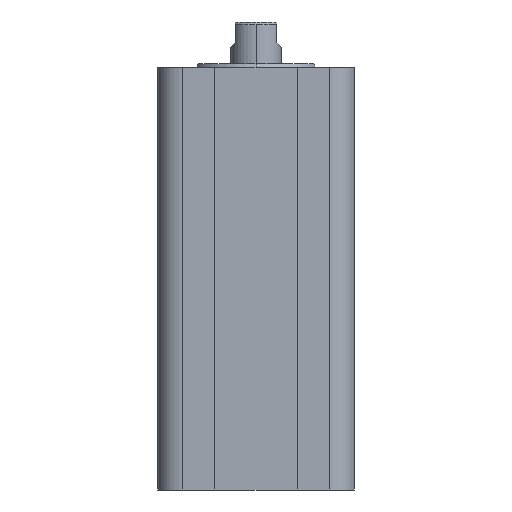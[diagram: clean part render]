
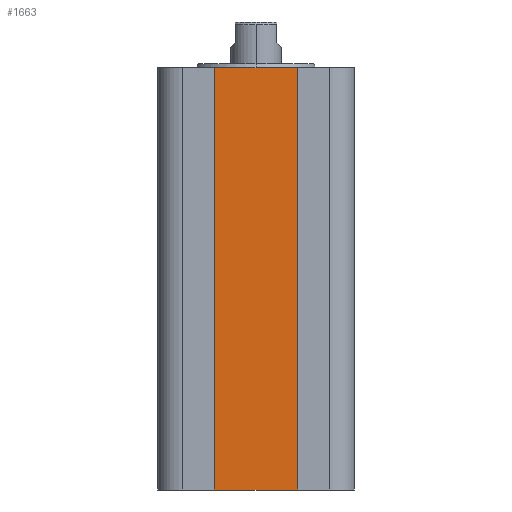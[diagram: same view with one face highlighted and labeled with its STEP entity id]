
A CAD part, front view. The second image highlights one B-rep face of the part: STEP entity #1663.
In plain terms, the highlighted planar face has unit normal (0, -1, 0).
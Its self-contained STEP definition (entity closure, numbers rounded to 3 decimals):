
#103=DIRECTION('',(-1.,0.,0.));
#104=VECTOR('',#103,12.498);
#105=CARTESIAN_POINT('',(6.249,-8.4,-50.5));
#106=LINE('',#105,#104);
#292=DIRECTION('',(-1.,0.,0.));
#293=VECTOR('',#292,12.498);
#294=CARTESIAN_POINT('',(6.249,-8.4,0.));
#295=LINE('',#294,#293);
#443=DIRECTION('',(0.,0.,-1.));
#444=VECTOR('',#443,50.5);
#445=CARTESIAN_POINT('',(6.249,-8.4,0.));
#446=LINE('',#445,#444);
#447=DIRECTION('',(0.,0.,1.));
#448=VECTOR('',#447,50.5);
#449=CARTESIAN_POINT('',(-6.249,-8.4,-50.5));
#450=LINE('',#449,#448);
#969=CARTESIAN_POINT('',(-6.249,-8.4,0.));
#970=VERTEX_POINT('',#969);
#971=CARTESIAN_POINT('',(6.249,-8.4,0.));
#972=VERTEX_POINT('',#971);
#997=CARTESIAN_POINT('',(-6.249,-8.4,-50.5));
#998=VERTEX_POINT('',#997);
#999=CARTESIAN_POINT('',(6.249,-8.4,-50.5));
#1000=VERTEX_POINT('',#999);
#1651=CARTESIAN_POINT('',(-6.249,-8.4,0.));
#1652=DIRECTION('',(0.,-1.,0.));
#1653=DIRECTION('',(1.,0.,0.));
#1654=AXIS2_PLACEMENT_3D('',#1651,#1652,#1653);
#1655=PLANE('',#1654);
#1656=ORIENTED_EDGE('',*,*,#1449,.F.);
#1657=ORIENTED_EDGE('',*,*,#1646,.T.);
#1658=ORIENTED_EDGE('',*,*,#1282,.T.);
#1660=ORIENTED_EDGE('',*,*,#1659,.T.);
#1661=EDGE_LOOP('',(#1656,#1657,#1658,#1660));
#1662=FACE_OUTER_BOUND('',#1661,.F.);
#1663=ADVANCED_FACE('',(#1662),#1655,.T.);
#1282=EDGE_CURVE('',#1000,#998,#106,.T.);
#1449=EDGE_CURVE('',#972,#970,#295,.T.);
#1646=EDGE_CURVE('',#972,#1000,#446,.T.);
#1659=EDGE_CURVE('',#998,#970,#450,.T.);
